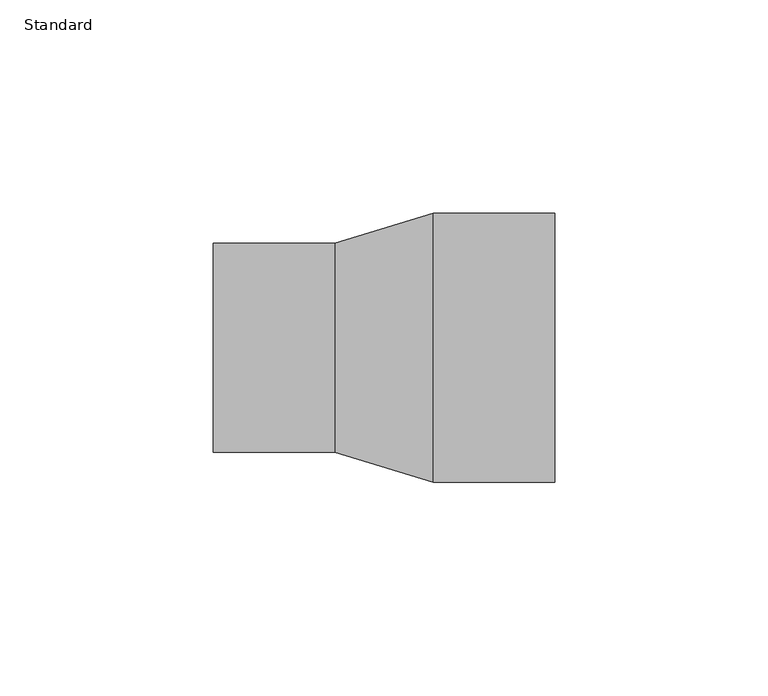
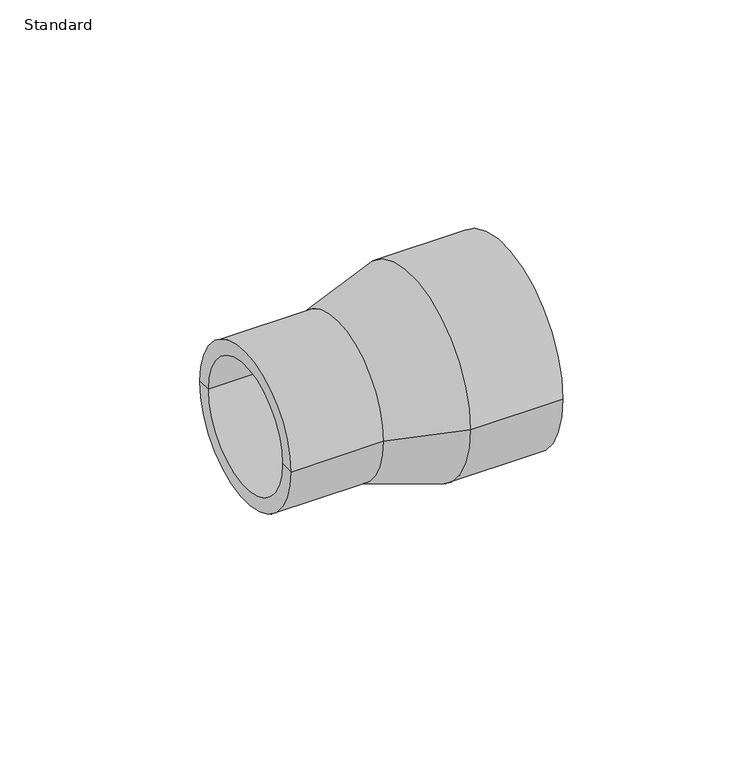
"""IFC4 building model written with IfcOpenShell, lengths in millimetres: pipe fitting geometry, Durapipe_PipeFitting_PVC_Reducers : Standard."""

from ifc_helpers import new_model, si_unit, frame, origin, place, context, project, spatial, polyline, circle_curve, source, transform, mapped, element, save
from ifc_brep_helpers import plane_surface, cylinder_surface, revolved_surface, advanced_brep


def standard_86f50a01(model_context):
    return source(origin(), model_context, "Body", "AdvancedBrep", [
        advanced_brep(
        [(-40.0, -24.5, 0.0), (-40.0, 24.5, 0.0), (-11.5, 24.5, 0.0), (-11.5, -24.5, 0.0), (-40.0, -20.0, 0.0), (-40.0, 20.0, 0.0), (40.0, -31.5, 0.0), (40.0, 31.5, 0.0), (40.0, 25.0, 0.0), (40.0, -25.0, 0.0), (11.5, -31.5, 0.0), (11.5, 31.5, 0.0), (-11.5, -20.0, 0.0), (-11.5, 20.0, 0.0), (-11.5, 0.0, 0.0), (11.5, -25.0, 0.0), (11.5, 25.0, 0.0), (11.5, 0.0, 0.0)],
        [
            (0, 1, circle_curve(frame((-40.0, 0.0, 0.0), z_axis=(1.0, 0.0, 0.0), x_axis=(0.0, 1.0, 0.0)), 24.5)),
            (1, 2),
            (2, 3, circle_curve(frame((-11.5, 0.0, 0.0), z_axis=(-1.0, 0.0, 0.0), x_axis=(0.0, 1.0, 0.0)), 24.5)),
            (3, 0),
            (1, 0, circle_curve(frame((-40.0, 0.0, 0.0), z_axis=(1.0, 0.0, 0.0), x_axis=(0.0, 1.0, 0.0)), 24.5)),
            (3, 2, circle_curve(frame((-11.5, 0.0, 0.0), z_axis=(-1.0, 0.0, 0.0), x_axis=(0.0, 1.0, 0.0)), 24.5)),
            (4, 5, circle_curve(frame((-40.0, 0.0, 0.0), z_axis=(1.0, 0.0, 0.0), x_axis=(0.0, 1.0, 0.0)), 20.0)),
            (5, 1),
            (0, 4),
            (5, 4, circle_curve(frame((-40.0, 0.0, 0.0), z_axis=(1.0, 0.0, 0.0), x_axis=(0.0, 1.0, 0.0)), 20.0)),
            (6, 7, circle_curve(frame((40.0, 0.0, 0.0), z_axis=(1.0, 0.0, 0.0), x_axis=(0.0, 1.0, 0.0)), 31.5)),
            (7, 8),
            (8, 9, circle_curve(frame((40.0, 0.0, 0.0), z_axis=(-1.0, 0.0, 0.0), x_axis=(0.0, 1.0, 0.0)), 25.0)),
            (9, 6),
            (7, 6, circle_curve(frame((40.0, 0.0, 0.0), z_axis=(1.0, 0.0, 0.0), x_axis=(0.0, 1.0, 0.0)), 31.5)),
            (9, 8, circle_curve(frame((40.0, 0.0, 0.0), z_axis=(-1.0, 0.0, 0.0), x_axis=(0.0, 1.0, 0.0)), 25.0)),
            (10, 11, circle_curve(frame((11.5, 0.0, 0.0), z_axis=(1.0, 0.0, 0.0), x_axis=(0.0, 1.0, 0.0)), 31.5)),
            (11, 7),
            (6, 10),
            (11, 10, circle_curve(frame((11.5, 0.0, 0.0), z_axis=(1.0, 0.0, 0.0), x_axis=(0.0, 1.0, 0.0)), 31.5)),
            (2, 11),
            (10, 3),
            (12, 13, circle_curve(frame((-11.5, 0.0, 0.0), z_axis=(1.0, 0.0, 0.0), x_axis=(0.0, 1.0, 0.0)), 20.0)),
            (13, 5),
            (4, 12),
            (13, 12, circle_curve(frame((-11.5, 0.0, 0.0), z_axis=(1.0, 0.0, 0.0), x_axis=(0.0, 1.0, 0.0)), 20.0)),
            (14, 13),
            (12, 14),
            (15, 16, circle_curve(frame((11.5, 0.0, 0.0), z_axis=(1.0, 0.0, 0.0), x_axis=(0.0, 1.0, 0.0)), 25.0)),
            (16, 17),
            (17, 15),
            (16, 15, circle_curve(frame((11.5, 0.0, 0.0), z_axis=(1.0, 0.0, 0.0), x_axis=(0.0, 1.0, 0.0)), 25.0)),
            (8, 16),
            (15, 9),
        ],
        [
            cylinder_surface(frame((-40.0, 0.0, 0.0), z_axis=(-1.0, 0.0, 0.0), x_axis=(0.0, 1.0, 0.0)), 24.5),
            plane_surface(frame((-40.0, 0.0, 0.0), z_axis=(-1.0, 0.0, 0.0), x_axis=(0.0, 1.0, 0.0))),
            plane_surface(frame((40.0, 0.0, 0.0), z_axis=(1.0, 0.0, 0.0), x_axis=(0.0, 1.0, 0.0))),
            cylinder_surface(frame((-40.0, 0.0, 0.0), z_axis=(-1.0, 0.0, 0.0), x_axis=(0.0, 1.0, 0.0)), 31.5),
            revolved_surface(polyline([(11.5, 31.5, 0.0), (-11.5, 24.5, 0.0)]), (-40.0, 0.0, 0.0), (-1.0, 0.0, 0.0)),
            revolved_surface(polyline([(-40.0, 20.0, 0.0), (-11.5, 20.0, 0.0)]), (-40.0, 0.0, 0.0), (-1.0, 0.0, 0.0)),
            plane_surface(frame((-11.5, 0.0, 0.0), z_axis=(-1.0, 0.0, 0.0), x_axis=(0.0, 1.0, 0.0))),
            plane_surface(frame((11.5, 0.0, 0.0), z_axis=(1.0, 0.0, 0.0), x_axis=(0.0, 1.0, 0.0))),
            revolved_surface(polyline([(11.5, 25.0, 0.0), (40.0, 25.0, 0.0)]), (-40.0, 0.0, 0.0), (-1.0, 0.0, 0.0)),
        ],
        [
            (0, [[1, 2, 3, 4]]),
            (0, [[5, -4, 6, -2]]),
            (1, [[7, 8, -1, 9]]),
            (1, [[10, -9, -5, -8]]),
            (2, [[11, 12, 13, 14]]),
            (2, [[15, -14, 16, -12]]),
            (3, [[17, 18, -11, 19]]),
            (3, [[20, -19, -15, -18]]),
            (4, [[-3, 21, -17, 22]]),
            (4, [[-6, -22, -20, -21]]),
            (5, [[23, 24, -7, 25]]),
            (5, [[26, -25, -10, -24]]),
            (6, [[27, -23, 28]]),
            (6, [[-28, -26, -27]]),
            (7, [[29, 30, 31]]),
            (7, [[32, -31, -30]]),
            (8, [[-13, 33, -29, 34]]),
            (8, [[-16, -34, -32, -33]]),
        ],
    ),
    ])


if __name__ == "__main__":
    model = new_model("IFC4")
    model_context = context("Model", 3, world=origin())
    ifc_project = project(units=[si_unit("LENGTHUNIT", "METRE", prefix="MILLI")], contexts=[model_context])
    site = spatial("IfcSite", under=ifc_project)
    building = spatial("IfcBuilding", under=site)
    placement = place(None, origin())
    standard_shape = standard_86f50a01(model_context)
    element("IfcPipeFitting", 1, ObjectType="Durapipe_PipeFitting_PVC_Reducers : Standard", at=placement, inside=building, context=model_context, shape_type="MappedRepresentation", body=[
        mapped(standard_shape, transform((0.0, 0.0, 0.0), x_axis=(1.0, 0.0, 0.0), y_axis=(0.0, 1.0, 0.0), z_axis=(0.0, 0.0, 1.0))),
    ])
    save(model, "model.ifc")
